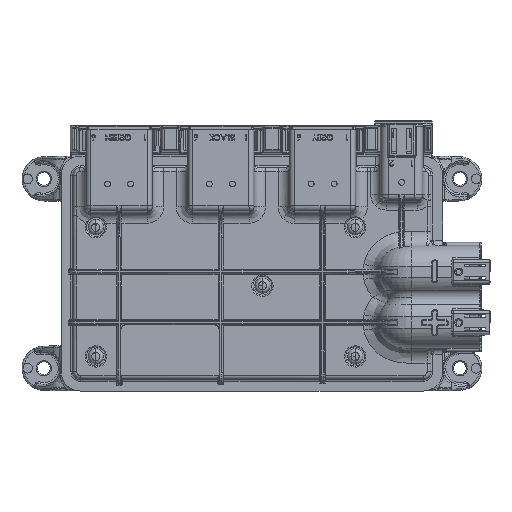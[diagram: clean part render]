
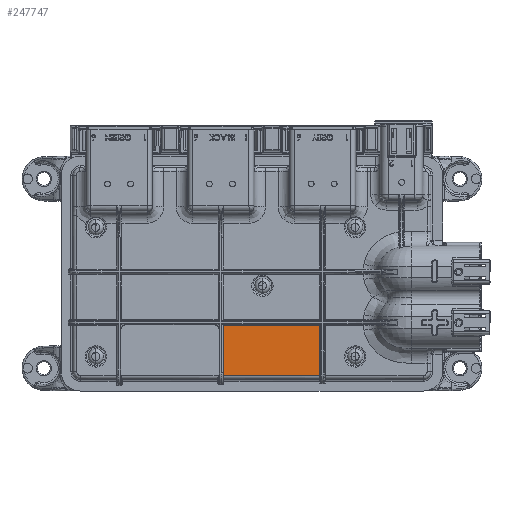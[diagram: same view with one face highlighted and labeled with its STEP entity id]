
A CAD part, front view. The second image highlights one B-rep face of the part: STEP entity #247747.
In plain terms, the highlighted planar face has unit normal (0, -1, 0).
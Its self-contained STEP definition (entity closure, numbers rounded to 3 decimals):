
#6583 = AXIS2_PLACEMENT_3D ( 'NONE', #99527, #261797, #122939 ) ;
#43444 = VERTEX_POINT ( 'NONE', #155807 ) ;
#45560 = ORIENTED_EDGE ( 'NONE', *, *, #206358, .T. ) ;
#54105 = LINE ( 'NONE', #106072, #170204 ) ;
#59967 = VERTEX_POINT ( 'NONE', #199581 ) ;
#65203 = VECTOR ( 'NONE', #109016, 1000. ) ;
#65846 = FACE_OUTER_BOUND ( 'NONE', #167364, .T. ) ;
#67723 = ORIENTED_EDGE ( 'NONE', *, *, #224525, .F. ) ;
#71269 = EDGE_CURVE ( 'NONE', #59967, #97839, #54105, .T. ) ;
#77571 = VERTEX_POINT ( 'NONE', #179446 ) ;
#83411 = ORIENTED_EDGE ( 'NONE', *, *, #71269, .T. ) ;
#88213 = VECTOR ( 'NONE', #124521, 1000. ) ;
#97839 = VERTEX_POINT ( 'NONE', #209484 ) ;
#99527 = CARTESIAN_POINT ( 'NONE',  ( 89.186, -9., 53.086 ) ) ;
#106072 = CARTESIAN_POINT ( 'NONE',  ( -14.654, -9., 53.086 ) ) ;
#109016 = DIRECTION ( 'NONE',  ( -1., 0., 0. ) ) ;
#110359 = EDGE_CURVE ( 'NONE', #43444, #59967, #149912, .T. ) ;
#111001 = VECTOR ( 'NONE', #296001, 1000. ) ;
#118178 = LINE ( 'NONE', #201582, #111001 ) ;
#122939 = DIRECTION ( 'NONE',  ( 0., 0., -1. ) ) ;
#124521 = DIRECTION ( 'NONE',  ( -1., 0., 0. ) ) ;
#134209 = LINE ( 'NONE', #224582, #65203 ) ;
#143199 = PLANE ( 'NONE',  #6583 ) ;
#149912 = LINE ( 'NONE', #286817, #88213 ) ;
#155807 = CARTESIAN_POINT ( 'NONE',  ( 35.354, -9., -27.021 ) ) ;
#167364 = EDGE_LOOP ( 'NONE', ( #67723, #45560, #217921, #83411 ) ) ;
#170204 = VECTOR ( 'NONE', #291693, 1000. ) ;
#179446 = CARTESIAN_POINT ( 'NONE',  ( 35.354, -9., -53.103 ) ) ;
#199581 = CARTESIAN_POINT ( 'NONE',  ( -14.654, -9., -27.021 ) ) ;
#201582 = CARTESIAN_POINT ( 'NONE',  ( 35.354, -9., 53.086 ) ) ;
#206358 = EDGE_CURVE ( 'NONE', #77571, #43444, #118178, .T. ) ;
#209484 = CARTESIAN_POINT ( 'NONE',  ( -14.654, -9., -53.103 ) ) ;
#217921 = ORIENTED_EDGE ( 'NONE', *, *, #110359, .T. ) ;
#224525 = EDGE_CURVE ( 'NONE', #77571, #97839, #134209, .T. ) ;
#224582 = CARTESIAN_POINT ( 'NONE',  ( 89.186, -9., -53.103 ) ) ;
#247747 = ADVANCED_FACE ( 'NONE', ( #65846 ), #143199, .T. ) ;
#261797 = DIRECTION ( 'NONE',  ( 0., -1., 0. ) ) ;
#286817 = CARTESIAN_POINT ( 'NONE',  ( 89.186, -9., -27.021 ) ) ;
#291693 = DIRECTION ( 'NONE',  ( 0., 0., -1. ) ) ;
#296001 = DIRECTION ( 'NONE',  ( 0., 0., 1. ) ) ;
